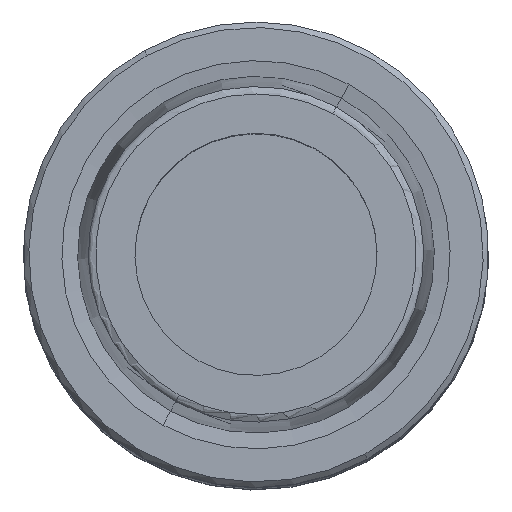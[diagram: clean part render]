
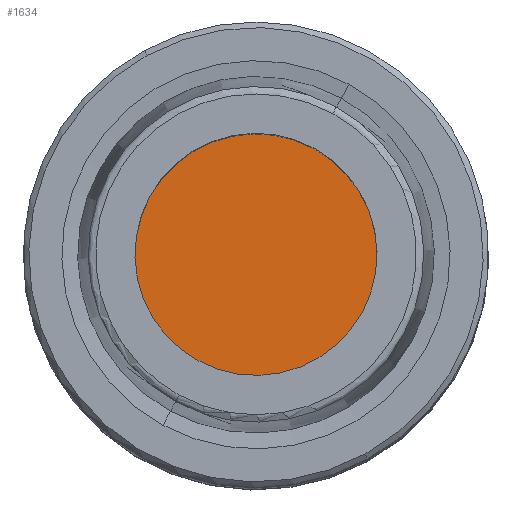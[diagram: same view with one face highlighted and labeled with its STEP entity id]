
A CAD part, top view. The second image highlights one B-rep face of the part: STEP entity #1634.
In plain terms, the highlighted planar face has unit normal (0, 0, 1).
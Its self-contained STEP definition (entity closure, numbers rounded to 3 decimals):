
#1614=AXIS2_PLACEMENT_3D('Plane Axis2P3D',#1611,#1612,#1613) ;
#1618=AXIS2_PLACEMENT_3D('Circle Axis2P3D',#1616,#1617,$) ;
#1627=AXIS2_PLACEMENT_3D('Circle Axis2P3D',#1625,#1626,$) ;
#1611=CARTESIAN_POINT('Axis2P3D Location',(0.,0.,-10.)) ;
#1616=CARTESIAN_POINT('Axis2P3D Location',(0.,0.,-10.)) ;
#1620=CARTESIAN_POINT('Vertex',(-6.233,-11.409,-10.)) ;
#1622=CARTESIAN_POINT('Vertex',(6.233,11.409,-10.)) ;
#1625=CARTESIAN_POINT('Axis2P3D Location',(0.,0.,-10.)) ;
#1612=DIRECTION('Axis2P3D Direction',(0.,0.,1.)) ;
#1613=DIRECTION('Axis2P3D XDirection',(1.,0.,0.)) ;
#1617=DIRECTION('Axis2P3D Direction',(0.,0.,1.)) ;
#1626=DIRECTION('Axis2P3D Direction',(0.,0.,1.)) ;
#1631=ORIENTED_EDGE('',*,*,#1624,.T.) ;
#1632=ORIENTED_EDGE('',*,*,#1629,.T.) ;
#1634=ADVANCED_FACE('NOCUT',(#1633),#1615,.T.) ;
#1619=CIRCLE('generated circle',#1618,13.) ;
#1628=CIRCLE('generated circle',#1627,13.) ;
#1624=EDGE_CURVE('',#1621,#1623,#1619,.T.) ;
#1629=EDGE_CURVE('',#1623,#1621,#1628,.T.) ;
#1630=EDGE_LOOP('',(#1631,#1632)) ;
#1633=FACE_OUTER_BOUND('',#1630,.T.) ;
#1615=PLANE('',#1614) ;
#1621=VERTEX_POINT('',#1620) ;
#1623=VERTEX_POINT('',#1622) ;
